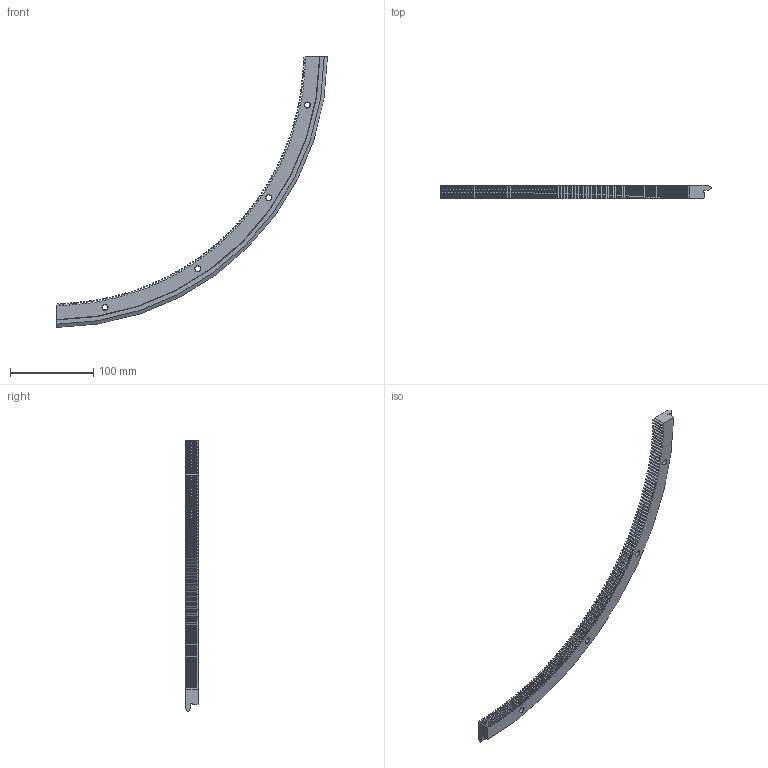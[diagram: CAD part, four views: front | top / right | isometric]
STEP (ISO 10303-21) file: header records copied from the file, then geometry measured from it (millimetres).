
FILE_DESCRIPTION( ( 'STEP AP203' ), '1' );
FILE_NAME( 'p:/temp/worker_71/temp/exporttempdir_3676_450_dlq8i/format_0/REM 655 R90 Q.stp', '2021-08-30T05:10:47', ( 'License CC BY-ND 4.0' ), ( 'CADENAS' ), ' ', 'PARTsolutions', ' ' );
FILE_SCHEMA( ( 'CONFIG_CONTROL_DESIGN' ) );
Length unit declared in the file: millimetre
Products named in the file (1): _REM 655 R90 Q
Bounding box: 325.74 x 15.5 x 325.74 mm (x, y, z)
Volume: 158150.8 mm3; surface area: 49147.3 mm2
Topology: 1 solids, 1 shells, 624 faces, 1850 edges, 1232 vertices
Faces by surface type: cylinder 249, plane 248, cone 126, torus 1
Full cylindrical faces by diameter (mm): 6.8 x4, 11 x4
Entity records: 21306 total; most frequent: CARTESIAN_POINT 4445, ORIENTED_EDGE 3676, DIRECTION 3468, EDGE_CURVE 1838, AXIS2_PLACEMENT_3D 1251, VERTEX_POINT 1232, LINE 966, VECTOR 966
